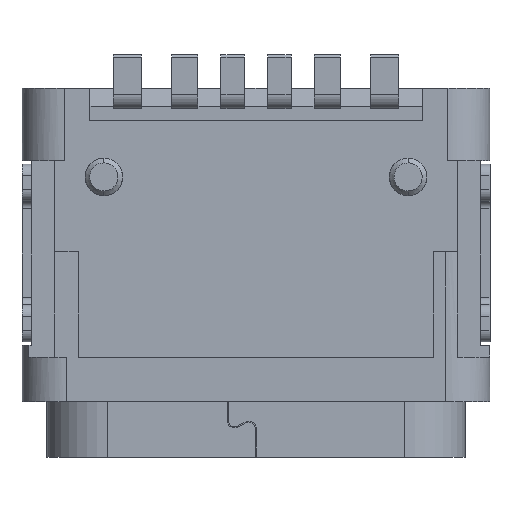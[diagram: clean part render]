
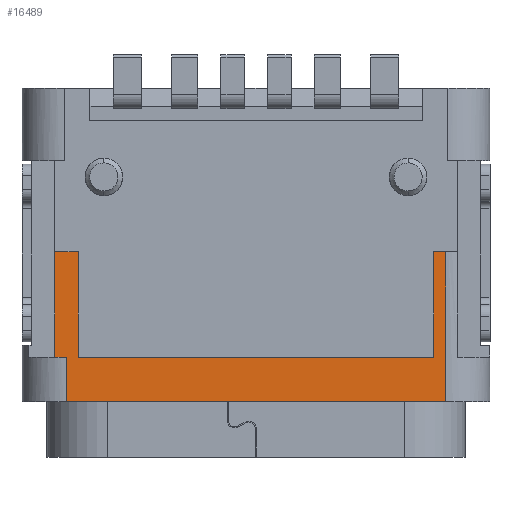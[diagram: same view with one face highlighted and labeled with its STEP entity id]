
A CAD part, front view. The second image highlights one B-rep face of the part: STEP entity #16489.
In plain terms, the highlighted planar face has unit normal (0, 1, 0).
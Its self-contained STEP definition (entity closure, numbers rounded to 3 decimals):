
#536 = CARTESIAN_POINT ( 'NONE',  ( 26.2, -2.31, 3.65 ) ) ;
#613 = CARTESIAN_POINT ( 'NONE',  ( 25.783, -2.31, 2.15 ) ) ;
#2096 = CARTESIAN_POINT ( 'NONE',  ( 33.8, -2.31, 2.15 ) ) ;
#2335 = CARTESIAN_POINT ( 'NONE',  ( 26.2, -2.31, 2.9 ) ) ;
#2461 = EDGE_CURVE ( 'NONE', #8324, #21303, #26140, .T. ) ;
#2618 = CARTESIAN_POINT ( 'NONE',  ( 25.95, -2.31, 1.833 ) ) ;
#2703 = CARTESIAN_POINT ( 'NONE',  ( 26.2, -2.31, 4.4 ) ) ;
#3025 = ORIENTED_EDGE ( 'NONE', *, *, #2461, .T. ) ;
#3182 = CARTESIAN_POINT ( 'NONE',  ( 25.95, -2.31, 1.517 ) ) ;
#3991 = CARTESIAN_POINT ( 'NONE',  ( 25.7, -2.31, 4.4 ) ) ;
#4489 = EDGE_CURVE ( 'NONE', #7761, #8324, #17025, .T. ) ;
#5357 = CARTESIAN_POINT ( 'NONE',  ( 26.2, -2.31, 2.15 ) ) ;
#5926 = CARTESIAN_POINT ( 'NONE',  ( 34.05, -2.31, 1.2 ) ) ;
#6266 = CARTESIAN_POINT ( 'NONE',  ( 33.8, -2.31, 2.15 ) ) ;
#6530 = CARTESIAN_POINT ( 'NONE',  ( 33.8, -2.31, 2.9 ) ) ;
#6829 = VERTEX_POINT ( 'NONE', #22473 ) ;
#7000 = B_SPLINE_CURVE_WITH_KNOTS ( 'NONE', 3,
 ( #27235, #8195, #23079, #16675 ),
 .UNSPECIFIED., .F., .F.,
 ( 4, 4 ),
 ( 0., 1. ),
 .UNSPECIFIED. ) ;
#7106 = CARTESIAN_POINT ( 'NONE',  ( 34.05, -2.31, 2.267 ) ) ;
#7270 = ORIENTED_EDGE ( 'NONE', *, *, #24603, .T. ) ;
#7454 = ORIENTED_EDGE ( 'NONE', *, *, #4489, .T. ) ;
#7603 = CARTESIAN_POINT ( 'NONE',  ( 33.8, -2.31, 4.4 ) ) ;
#7761 = VERTEX_POINT ( 'NONE', #19924 ) ;
#7849 = ORIENTED_EDGE ( 'NONE', *, *, #17632, .T. ) ;
#7968 = CARTESIAN_POINT ( 'NONE',  ( 25.7, -2.31, 4.4 ) ) ;
#8190 = PLANE ( 'NONE',  #24786 ) ;
#8195 = CARTESIAN_POINT ( 'NONE',  ( 25.867, -2.31, 4.4 ) ) ;
#8206 = ORIENTED_EDGE ( 'NONE', *, *, #18646, .T. ) ;
#8283 = ORIENTED_EDGE ( 'NONE', *, *, #10656, .T. ) ;
#8324 = VERTEX_POINT ( 'NONE', #5926 ) ;
#8721 = CARTESIAN_POINT ( 'NONE',  ( 33.8, -2.31, 2.15 ) ) ;
#9301 = VERTEX_POINT ( 'NONE', #3991 ) ;
#9412 = CARTESIAN_POINT ( 'NONE',  ( 25.95, -2.31, 1.2 ) ) ;
#10477 = B_SPLINE_CURVE_WITH_KNOTS ( 'NONE', 3,
 ( #15993, #21961, #22093, #22370 ),
 .UNSPECIFIED., .F., .F.,
 ( 4, 4 ),
 ( 0., 1. ),
 .UNSPECIFIED. ) ;
#10656 = EDGE_CURVE ( 'NONE', #27334, #16953, #26414, .T. ) ;
#11074 = FACE_OUTER_BOUND ( 'NONE', #13854, .T. ) ;
#12310 = CARTESIAN_POINT ( 'NONE',  ( 34.05, -2.31, 1.2 ) ) ;
#12508 = CARTESIAN_POINT ( 'NONE',  ( 31.267, -2.31, 2.15 ) ) ;
#13067 = ORIENTED_EDGE ( 'NONE', *, *, #17026, .T. ) ;
#13295 = CARTESIAN_POINT ( 'NONE',  ( 26.2, -2.31, 2.15 ) ) ;
#13487 = CARTESIAN_POINT ( 'NONE',  ( 34.05, -2.31, 1.2 ) ) ;
#13580 = CARTESIAN_POINT ( 'NONE',  ( 25.95, -2.31, 2.15 ) ) ;
#13595 = ORIENTED_EDGE ( 'NONE', *, *, #18609, .T. ) ;
#13780 = CARTESIAN_POINT ( 'NONE',  ( 28.65, -2.31, 1.2 ) ) ;
#13854 = EDGE_LOOP ( 'NONE', ( #18868, #7454, #3025, #7270, #24181, #13067, #7849, #8283, #8206, #13595 ) ) ;
#14586 = CARTESIAN_POINT ( 'NONE',  ( 30., -2.31, 2.95 ) ) ;
#14598 = CARTESIAN_POINT ( 'NONE',  ( 26.2, -2.31, 2.15 ) ) ;
#15007 = CARTESIAN_POINT ( 'NONE',  ( 33.8, -2.31, 4.4 ) ) ;
#15527 = VERTEX_POINT ( 'NONE', #7603 ) ;
#15861 = B_SPLINE_CURVE_WITH_KNOTS ( 'NONE', 3,
 ( #14598, #16680, #12508, #2096 ),
 .UNSPECIFIED., .F., .F.,
 ( 4, 4 ),
 ( 0., 1. ),
 .UNSPECIFIED. ) ;
#15993 = CARTESIAN_POINT ( 'NONE',  ( 33.8, -2.31, 4.4 ) ) ;
#16489 = ADVANCED_FACE ( 'NONE', ( #11074 ), #8190, .T. ) ;
#16675 = CARTESIAN_POINT ( 'NONE',  ( 26.2, -2.31, 4.4 ) ) ;
#16680 = CARTESIAN_POINT ( 'NONE',  ( 28.733, -2.31, 2.15 ) ) ;
#16953 = VERTEX_POINT ( 'NONE', #5357 ) ;
#17025 = B_SPLINE_CURVE_WITH_KNOTS ( 'NONE', 3,
 ( #26142, #24053, #7106, #13487 ),
 .UNSPECIFIED., .F., .F.,
 ( 4, 4 ),
 ( 0., 1. ),
 .UNSPECIFIED. ) ;
#17026 = EDGE_CURVE ( 'NONE', #6829, #9301, #22281, .T. ) ;
#17632 = EDGE_CURVE ( 'NONE', #9301, #27334, #7000, .T. ) ;
#17745 = CARTESIAN_POINT ( 'NONE',  ( 26.2, -2.31, 4.4 ) ) ;
#18260 = CARTESIAN_POINT ( 'NONE',  ( 25.7, -2.31, 2.15 ) ) ;
#18327 = B_SPLINE_CURVE_WITH_KNOTS ( 'NONE', 3,
 ( #9412, #3182, #2618, #13580 ),
 .UNSPECIFIED., .F., .F.,
 ( 4, 4 ),
 ( 0., 1. ),
 .UNSPECIFIED. ) ;
#18517 = CARTESIAN_POINT ( 'NONE',  ( 25.7, -2.31, 3.65 ) ) ;
#18609 = EDGE_CURVE ( 'NONE', #20541, #15527, #24534, .T. ) ;
#18646 = EDGE_CURVE ( 'NONE', #16953, #20541, #15861, .T. ) ;
#18868 = ORIENTED_EDGE ( 'NONE', *, *, #20317, .T. ) ;
#18890 = DIRECTION ( 'NONE',  ( 0., 1., 0. ) ) ;
#19764 = CARTESIAN_POINT ( 'NONE',  ( 25.867, -2.31, 2.15 ) ) ;
#19924 = CARTESIAN_POINT ( 'NONE',  ( 34.05, -2.31, 4.4 ) ) ;
#20317 = EDGE_CURVE ( 'NONE', #15527, #7761, #10477, .T. ) ;
#20541 = VERTEX_POINT ( 'NONE', #8721 ) ;
#20665 = CARTESIAN_POINT ( 'NONE',  ( 31.35, -2.31, 1.2 ) ) ;
#20859 = DIRECTION ( 'NONE',  ( 1., 0., 0. ) ) ;
#21303 = VERTEX_POINT ( 'NONE', #25860 ) ;
#21737 = CARTESIAN_POINT ( 'NONE',  ( 25.7, -2.31, 2.15 ) ) ;
#21961 = CARTESIAN_POINT ( 'NONE',  ( 33.883, -2.31, 4.4 ) ) ;
#22093 = CARTESIAN_POINT ( 'NONE',  ( 33.967, -2.31, 4.4 ) ) ;
#22260 = CARTESIAN_POINT ( 'NONE',  ( 25.95, -2.31, 1.2 ) ) ;
#22281 = B_SPLINE_CURVE_WITH_KNOTS ( 'NONE', 3,
 ( #18260, #26603, #18517, #7968 ),
 .UNSPECIFIED., .F., .F.,
 ( 4, 4 ),
 ( 0., 1. ),
 .UNSPECIFIED. ) ;
#22370 = CARTESIAN_POINT ( 'NONE',  ( 34.05, -2.31, 4.4 ) ) ;
#22473 = CARTESIAN_POINT ( 'NONE',  ( 25.7, -2.31, 2.15 ) ) ;
#22786 = B_SPLINE_CURVE_WITH_KNOTS ( 'NONE', 3,
 ( #23542, #19764, #613, #21737 ),
 .UNSPECIFIED., .F., .F.,
 ( 4, 4 ),
 ( 0., 1. ),
 .UNSPECIFIED. ) ;
#23079 = CARTESIAN_POINT ( 'NONE',  ( 26.033, -2.31, 4.4 ) ) ;
#23353 = CARTESIAN_POINT ( 'NONE',  ( 33.8, -2.31, 3.65 ) ) ;
#23542 = CARTESIAN_POINT ( 'NONE',  ( 25.95, -2.31, 2.15 ) ) ;
#24053 = CARTESIAN_POINT ( 'NONE',  ( 34.05, -2.31, 3.333 ) ) ;
#24181 = ORIENTED_EDGE ( 'NONE', *, *, #27394, .T. ) ;
#24243 = CARTESIAN_POINT ( 'NONE',  ( 25.95, -2.31, 2.15 ) ) ;
#24534 = B_SPLINE_CURVE_WITH_KNOTS ( 'NONE', 3,
 ( #6266, #6530, #23353, #15007 ),
 .UNSPECIFIED., .F., .F.,
 ( 4, 4 ),
 ( 0., 1. ),
 .UNSPECIFIED. ) ;
#24603 = EDGE_CURVE ( 'NONE', #21303, #27096, #18327, .T. ) ;
#24786 = AXIS2_PLACEMENT_3D ( 'NONE', #14586, #18890, #20859 ) ;
#25860 = CARTESIAN_POINT ( 'NONE',  ( 25.95, -2.31, 1.2 ) ) ;
#26140 = B_SPLINE_CURVE_WITH_KNOTS ( 'NONE', 3,
 ( #12310, #20665, #13780, #22260 ),
 .UNSPECIFIED., .F., .F.,
 ( 4, 4 ),
 ( 0., 1. ),
 .UNSPECIFIED. ) ;
#26142 = CARTESIAN_POINT ( 'NONE',  ( 34.05, -2.31, 4.4 ) ) ;
#26414 = B_SPLINE_CURVE_WITH_KNOTS ( 'NONE', 3,
 ( #17745, #536, #2335, #13295 ),
 .UNSPECIFIED., .F., .F.,
 ( 4, 4 ),
 ( 0., 1. ),
 .UNSPECIFIED. ) ;
#26603 = CARTESIAN_POINT ( 'NONE',  ( 25.7, -2.31, 2.9 ) ) ;
#27096 = VERTEX_POINT ( 'NONE', #24243 ) ;
#27235 = CARTESIAN_POINT ( 'NONE',  ( 25.7, -2.31, 4.4 ) ) ;
#27334 = VERTEX_POINT ( 'NONE', #2703 ) ;
#27394 = EDGE_CURVE ( 'NONE', #27096, #6829, #22786, .T. ) ;
